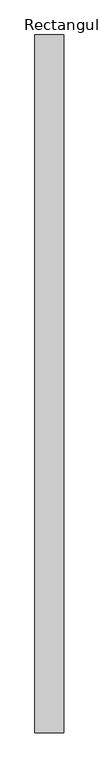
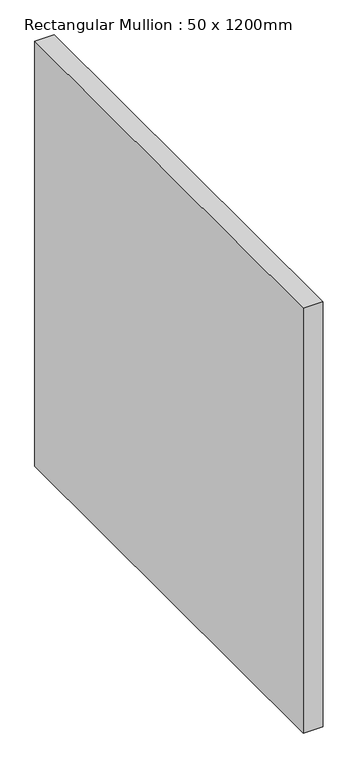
"""IFC4 building model written with IfcOpenShell, lengths in millimetres: member geometry, Rectangular Mullion : 50 x 1200mm."""

from ifc_helpers import new_model, si_unit, frame, origin, place, context, project, spatial, polyline, outline, extrude, source, transform, mapped, element, save


def rectangular_mullion_50_x_1200mm_b79d1996(model_context):
    return source(origin(), model_context, "Body", "SweptSolid", [
        extrude(outline(polyline([(25.0, 1120.0), (25.0, -80.0), (-25.0, -80.0), (-25.0, 1120.0), (25.0, 1120.0)])), frame((0.0, 0.0, -1157.1428571), z_axis=(0.0, 0.0, 1.0), x_axis=(1.0, 0.0, 0.0)), (0.0, 0.0, 1.0), 1157.1428571),
    ])


if __name__ == "__main__":
    model = new_model("IFC4")
    model_context = context("Model", 3, world=origin())
    ifc_project = project(units=[si_unit("LENGTHUNIT", "METRE", prefix="MILLI")], contexts=[model_context])
    site = spatial("IfcSite", under=ifc_project)
    building = spatial("IfcBuilding", under=site)
    placement = place(None, origin())
    rectangular_mullion_50_x_1200mm_shape = rectangular_mullion_50_x_1200mm_b79d1996(model_context)
    element("IfcMember", 1, ObjectType="Rectangular Mullion : 50 x 1200mm", at=placement, inside=building, context=model_context, shape_type="MappedRepresentation", body=[
        mapped(rectangular_mullion_50_x_1200mm_shape, transform((0.0, 0.0, 0.0), x_axis=(1.0, 0.0, 0.0), y_axis=(0.0, 1.0, 0.0), z_axis=(0.0, 0.0, 1.0))),
    ])
    save(model, "model.ifc")
